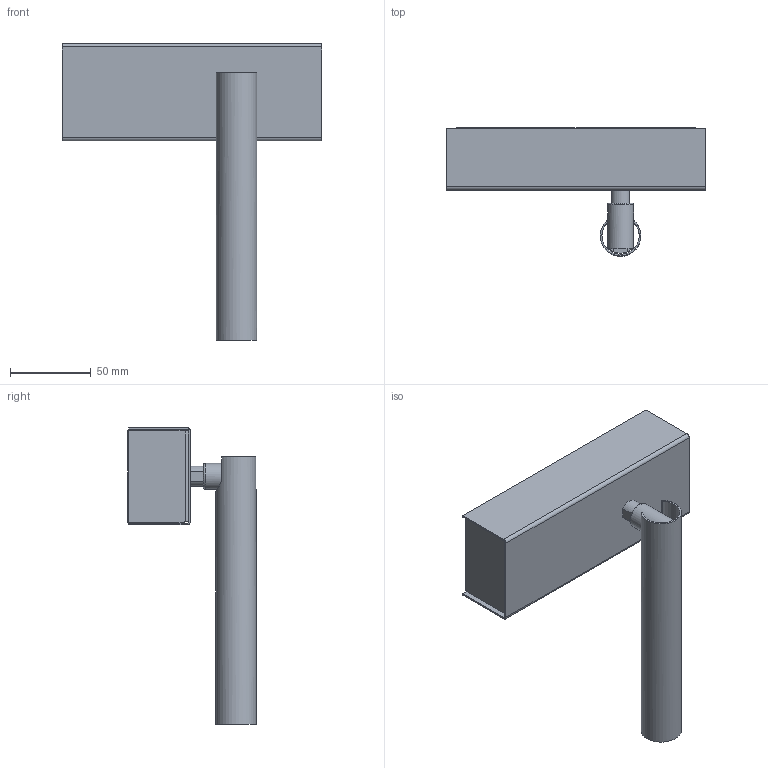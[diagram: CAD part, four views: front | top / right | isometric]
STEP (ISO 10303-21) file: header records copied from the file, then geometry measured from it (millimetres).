
FILE_DESCRIPTION(/* description */ (''),/* implementation_level */ '2;1');
FILE_NAME(/* name */ 'MIRA ENDLESS CASAMBI.stp',/* time_stamp */ '2023-02-17T14:13:24+01:00',/* author */ ('n.bisotti'),/* organization */ (''),/* preprocessor_version */ 'ST-DEVELOPER v19.2',/* originating_system */ 'Autodesk Inventor 2023',/* authorisation */ '');
FILE_SCHEMA (('AUTOMOTIVE_DESIGN { 1 0 10303 214 3 1 1 }'));
Length unit declared in the file: millimetre
Products named in the file (1): Parte2
Bounding box: 160 x 79.1 x 183.05 mm (x, y, z)
Volume: 65398.2 mm3; surface area: 112344.8 mm2
Topology: 8 solids, 8 shells, 202 faces, 498 edges, 310 vertices
Faces by surface type: plane 117, cylinder 76, cone 5, sphere 2, bspline 1, torus 1
Full cylindrical faces by diameter (mm): 2.459 x3, 6.8 x1, 8.917 x1, 10.25 x1, 16 x1, 23 x1, 25 x1
Entity records: 6399 total; most frequent: CARTESIAN_POINT 1218, DIRECTION 1048, ORIENTED_EDGE 992, EDGE_CURVE 496, AXIS2_PLACEMENT_3D 369, LINE 310, VECTOR 310, VERTEX_POINT 310
